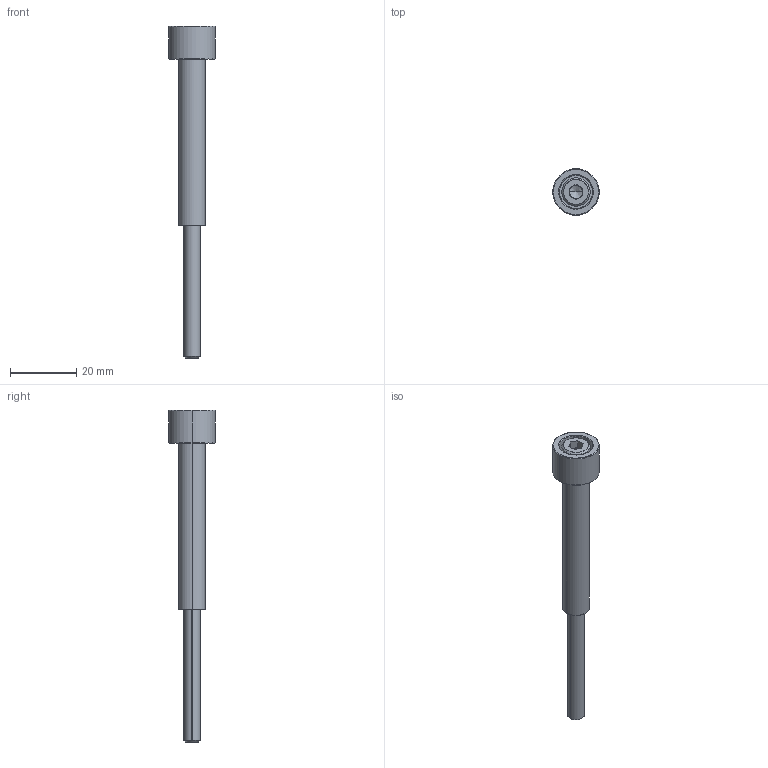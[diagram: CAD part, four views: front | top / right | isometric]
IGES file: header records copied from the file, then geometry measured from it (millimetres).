
Global section: file name: E:\UnigraphicsGraphicData\MISUMI_PRESS-PARTS\IGES\3d_sbjh8-50-95_05043_r00.igs; native system: NX V5.0; preprocessor: UGS NX IGES V5.0; author: MISUMI; date: 20110105.162426; units: millimetre
Bounding box: 14 x 14 x 100 mm (x, y, z)
Surface area: 4795.5 mm2 (no closed solid volume)
Topology: 0 solids, 0 shells, 48 faces, 276 edges, 274 vertices
Faces by surface type: bspline 48
